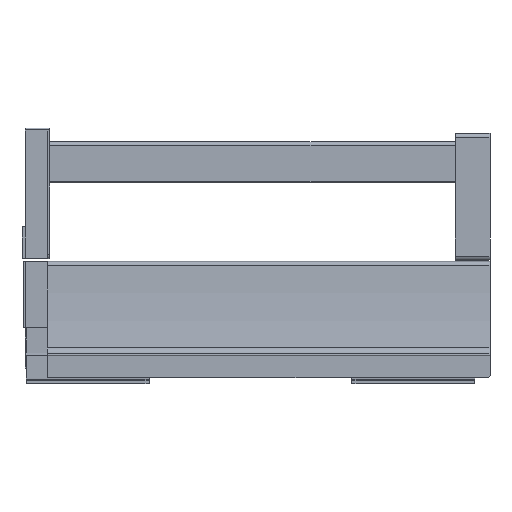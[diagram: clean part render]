
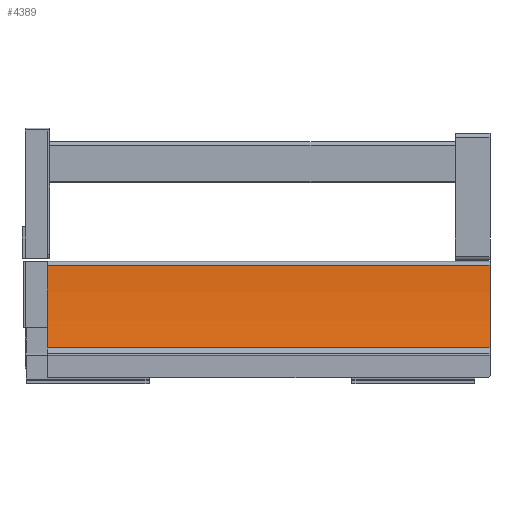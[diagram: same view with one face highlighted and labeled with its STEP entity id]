
A CAD part, left-side view. The second image highlights one B-rep face of the part: STEP entity #4389.
In plain terms, the highlighted cylindrical face has radius 350 mm (diameter 700 mm), a partial arc.
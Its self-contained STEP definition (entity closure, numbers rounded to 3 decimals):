
#102 = DIRECTION ( 'NONE',  ( 1., 0., 0. ) ) ;
#103 = DIRECTION ( 'NONE',  ( 0., -1., 0. ) ) ;
#104 = CARTESIAN_POINT ( 'NONE',  ( -369.665, 340., 58.86 ) ) ;
#679 = CIRCLE ( 'NONE', #1624, 350. ) ;
#821 = VECTOR ( 'NONE', #3412, 1000. ) ;
#822 = LINE ( 'NONE', #3414, #821 ) ;
#974 = CARTESIAN_POINT ( 'NONE',  ( -27.279, 323.8, -13.745 ) ) ;
#975 = CARTESIAN_POINT ( 'NONE',  ( -19.88, 323.8, 46.603 ) ) ;
#987 = CARTESIAN_POINT ( 'NONE',  ( -19.88, 0., 46.603 ) ) ;
#990 = CARTESIAN_POINT ( 'NONE',  ( -27.279, 0., -13.745 ) ) ;
#1199 = DIRECTION ( 'NONE',  ( 0., -1., 0. ) ) ;
#1201 = CARTESIAN_POINT ( 'NONE',  ( -19.88, 340., 46.603 ) ) ;
#1385 = DIRECTION ( 'NONE',  ( -1., 0., 0. ) ) ;
#1386 = DIRECTION ( 'NONE',  ( 0., -1., 0. ) ) ;
#1403 = CARTESIAN_POINT ( 'NONE',  ( -369.665, 0., 58.86 ) ) ;
#1523 = EDGE_CURVE ( 'NONE', #3298, #3270, #822, .T. ) ;
#1614 = EDGE_CURVE ( 'NONE', #3298, #3297, #679, .T. ) ;
#1624 = AXIS2_PLACEMENT_3D ( 'NONE', #3108, #3105, #3103 ) ;
#1671 = AXIS2_PLACEMENT_3D ( 'NONE', #1403, #1386, #1385 ) ;
#1739 = AXIS2_PLACEMENT_3D ( 'NONE', #104, #103, #102 ) ;
#1890 = EDGE_CURVE ( 'NONE', #3297, #3275, #2643, .T. ) ;
#1971 = EDGE_CURVE ( 'NONE', #3270, #3275, #2673, .T. ) ;
#2092 = CYLINDRICAL_SURFACE ( 'NONE', #1739, 350. ) ;
#2095 = FACE_OUTER_BOUND ( 'NONE', #3835, .T. ) ;
#2643 = LINE ( 'NONE', #1201, #2644 ) ;
#2644 = VECTOR ( 'NONE', #1199, 1000. ) ;
#2673 = CIRCLE ( 'NONE', #1671, 350. ) ;
#3103 = DIRECTION ( 'NONE',  ( -1., 0., 0. ) ) ;
#3105 = DIRECTION ( 'NONE',  ( 0., -1., 0. ) ) ;
#3108 = CARTESIAN_POINT ( 'NONE',  ( -369.665, 323.8, 58.86 ) ) ;
#3270 = VERTEX_POINT ( 'NONE', #990 ) ;
#3275 = VERTEX_POINT ( 'NONE', #987 ) ;
#3297 = VERTEX_POINT ( 'NONE', #975 ) ;
#3298 = VERTEX_POINT ( 'NONE', #974 ) ;
#3412 = DIRECTION ( 'NONE',  ( 0., -1., 0. ) ) ;
#3414 = CARTESIAN_POINT ( 'NONE',  ( -27.279, 340., -13.745 ) ) ;
#3727 = ORIENTED_EDGE ( 'NONE', *, *, #1614, .F. ) ;
#3728 = ORIENTED_EDGE ( 'NONE', *, *, #1523, .T. ) ;
#3729 = ORIENTED_EDGE ( 'NONE', *, *, #1971, .T. ) ;
#3730 = ORIENTED_EDGE ( 'NONE', *, *, #1890, .F. ) ;
#3835 = EDGE_LOOP ( 'NONE', ( #3727, #3728, #3729, #3730 ) ) ;
#4389 = ADVANCED_FACE ( 'NONE', ( #2095 ), #2092, .F. ) ;
